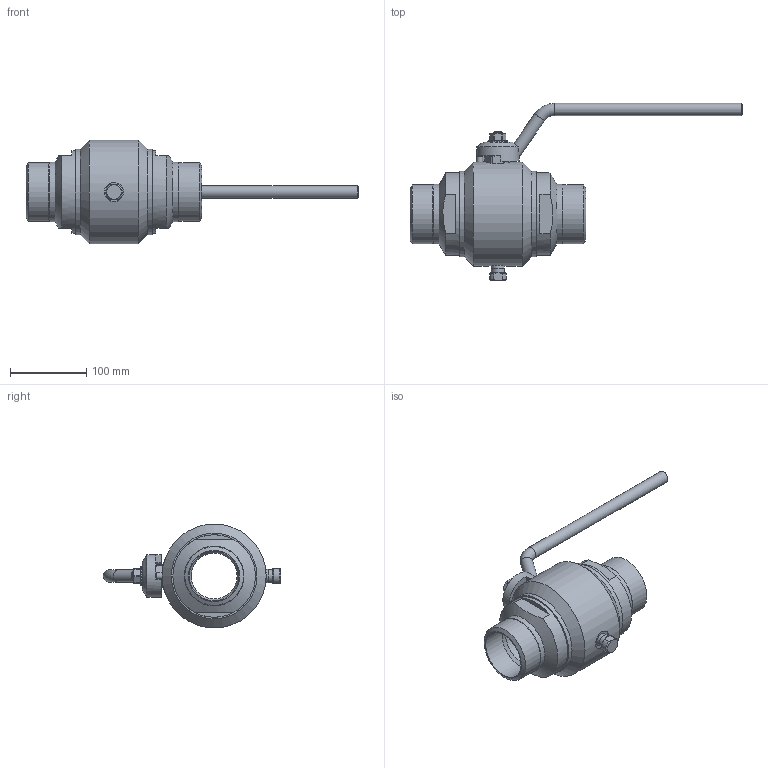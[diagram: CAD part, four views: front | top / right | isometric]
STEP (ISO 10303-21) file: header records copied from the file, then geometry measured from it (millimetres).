
FILE_DESCRIPTION(('STEP AP203'), '1');
FILE_NAME('ZARD 065.040.40.P.stp', '2013-12-06T10:14:29', ($), ($), 'ASCON STEP Converter 1.3', 'Kompas 3D', '');
FILE_SCHEMA(('CONFIG_CONTROL_DESIGN','SUPPORT_RESOURCE_SCHEMA'));
Length unit declared in the file: millimetre
Products named in the file (1): 240
Bounding box: 434.31 x 232 x 136 mm (x, y, z)
Volume: 1411271 mm3; surface area: 180486.9 mm2
Topology: 1 solids, 5 shells, 176 faces, 410 edges, 249 vertices
Faces by surface type: plane 72, cylinder 55, cone 41, torus 8
Full cylindrical faces by diameter (mm): 8 x2, 12 x2, 14.141 x1, 16 x2, 17.33 x1, 22 x1, 24 x3, 24.1 x1, 25 x1, 26 x1, 31.8 x1, 32 x1, 35 x2, 56 x1, 60 x2, 65 x2, 77 x2, 78 x2, 97.8 x1, 108 x2, 112 x2, 136 x1
Entity records: 7562 total; most frequent: CARTESIAN_POINT 3442, DIRECTION 867, ORIENTED_EDGE 820, EDGE_CURVE 410, AXIS2_PLACEMENT_3D 348, VERTEX_POINT 249, EDGE_LOOP 199, ADVANCED_FACE 176
